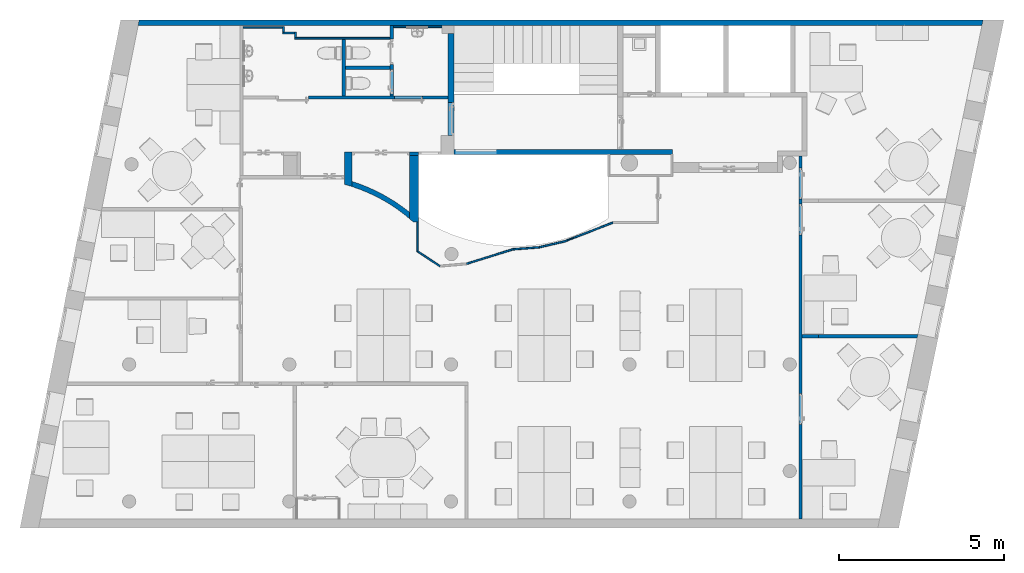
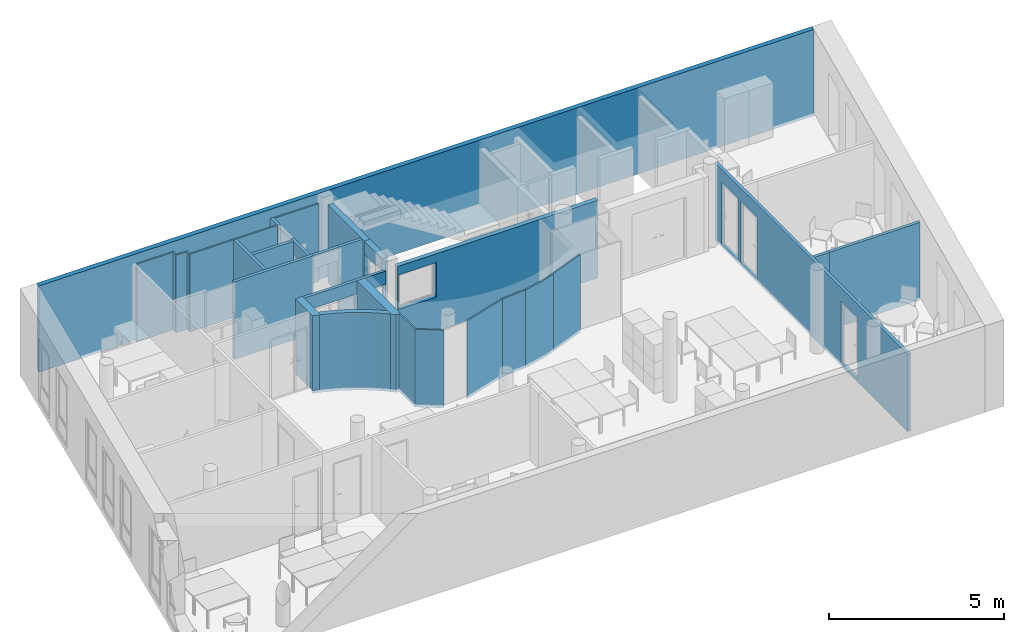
"""IFC4 building model written with IfcOpenShell, lengths in metres."""

from ifc_helpers import new_model, entity, si_unit, converted_unit, derived_unit, frame, frame_2d, origin, origin_with_axes, place, context, subcontext, project, spatial, polyline, rectangle, outline, extrude, clip, bounded_halfspace, material, layer, layer_set, layer_usage, element, save


model = new_model("IFC4")

# Units and contexts
model_context = context("Model", 3, precision=1e-05, world=origin())
body_context = subcontext(model_context, "Body", "Model", "MODEL_VIEW")
ifc_project = project(units=[si_unit("LENGTHUNIT", "METRE"), si_unit("AREAUNIT", "SQUARE_METRE"), si_unit("VOLUMEUNIT", "CUBIC_METRE"), si_unit("MASSUNIT", "GRAM", prefix="KILO"), converted_unit("PLANEANGLEUNIT", "DEGREE", entity("IfcPlaneAngleMeasure", 0.0174532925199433), si_unit("PLANEANGLEUNIT", "RADIAN"), dimensions=[0, 0, 0, 0, 0, 0, 0]), derived_unit("THERMALTRANSMITTANCEUNIT", [(si_unit("POWERUNIT", "WATT"), 1), (si_unit("THERMODYNAMICTEMPERATUREUNIT", "KELVIN"), -1), (si_unit("LENGTHUNIT", "METRE"), -2)]), derived_unit("VOLUMETRICFLOWRATEUNIT", [(si_unit("LENGTHUNIT", "METRE"), 3), (converted_unit("TIMEUNIT", "hour", entity("IfcTimeMeasure", 3600.0), si_unit("TIMEUNIT", "SECOND"), dimensions=[0, 0, 1, 0, 0, 0, 0]), -1), (si_unit("LENGTHUNIT", "METRE"), -1)])], contexts=[model_context])

# Building, storeys
building_placement = place(None, origin())
building = spatial("IfcBuilding", under=ifc_project, at=building_placement, Name="HABITATGE PLURIFAMILIAR", CompositionType="ELEMENT")
storey_1_placement = place(building_placement, frame((0.0, 0.0, 12.27)))
storey_1 = spatial("IfcBuildingStorey", under=building, at=storey_1_placement, Name="PLANTA TERCERA", CompositionType="ELEMENT", Elevation=12.27)
storey_2_placement = place(storey_1_placement, frame((0.0, 0.0, 9.26)))
storey_2 = spatial("IfcBuildingStorey", under=storey_1, at=storey_2_placement, Name="NOU", CompositionType="PARTIAL")

# Walls
ifc_material_1 = material()
ifc_layer_1 = layer(ifc_material_1, 0.1)
ifc_layer_set_1 = layer_set([ifc_layer_1])
ifc_layer_usage_1 = layer_usage(ifc_layer_set_1, "AXIS2", "POSITIVE", 0.0)
wall_1_placement = place(storey_2_placement, frame((407.539729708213, 26.7335398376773, -9.36)))
element("IfcWall", 1, at=wall_1_placement, inside=storey_2, material=ifc_layer_usage_1, Name="Evans P3", context=body_context, shape_type="SweptSolid", body=[
    extrude(rectangle(XDim=1.34774396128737, YDim=0.1, at=frame_2d((0.673871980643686, 0.05), x_axis=(1.0, 0.0))), origin_with_axes(), (0.0, 0.0, 1.0), 2.71),
])
ifc_material_2 = material()
ifc_layer_2 = layer(ifc_material_2, 0.1)
ifc_layer_set_2 = layer_set([ifc_layer_2])
ifc_layer_usage_2 = layer_usage(ifc_layer_set_2, "AXIS2", "POSITIVE", 0.0)
wall_2_placement = place(storey_2_placement, frame((407.439729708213, 27.6494598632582, -9.36), z_axis=(0.0, 0.0, 1.0), x_axis=(0.0, -1.0, 0.0)))
element("IfcWall", 2, at=wall_2_placement, inside=storey_2, material=ifc_layer_usage_2, Name="Evans P3", context=body_context, shape_type="SweptSolid", body=[
    extrude(rectangle(XDim=1.72, YDim=0.1, at=frame_2d((0.86, 0.05), x_axis=(1.0, 0.0))), origin_with_axes(), (0.0, 0.0, 1.0), 2.71),
])
ifc_material_3 = material()
ifc_layer_3 = layer(ifc_material_3, 0.05)
ifc_layer_set_3 = layer_set([ifc_layer_3])
ifc_layer_usage_3 = layer_usage(ifc_layer_set_3, "AXIS2", "POSITIVE", 0.0)
wall_3_placement = place(storey_2_placement, frame((404.436984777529, 27.9794598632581, -9.36)))
element("IfcWall", 3, at=wall_3_placement, inside=storey_2, material=ifc_layer_usage_3, Name="Evans P3", context=body_context, shape_type="SweptSolid", body=[
    extrude(rectangle(XDim=1.19999999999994, YDim=0.05, at=frame_2d((0.599999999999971, 0.025), x_axis=(1.0, 0.0))), origin_with_axes(), (0.0, 0.0, 1.0), 2.71),
])

# Wall, openings
ifc_material_4 = material()
ifc_layer_4 = layer(ifc_material_4, 0.1)
ifc_layer_set_4 = layer_set([ifc_layer_4])
ifc_layer_usage_4 = layer_usage(ifc_layer_set_4, "AXIS2", "POSITIVE", 0.0)
wall_4_placement = place(storey_2_placement, frame((410.426984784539, 24.2294598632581, -9.26), z_axis=(0.0, 0.0, 1.0), x_axis=(-1.0, 0.0, 0.0)))
wall_4 = element("IfcWall", 4, at=wall_4_placement, inside=storey_2, material=ifc_layer_usage_4, Name="Evans P3", context=body_context, shape_type="SweptSolid", body=[
    extrude(rectangle(XDim=2.69000000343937, YDim=0.1, at=frame_2d((1.34500000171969, 0.05), x_axis=(1.0, 0.0))), origin_with_axes(), (0.0, 0.0, 1.0), 2.61),
])
opening_1_placement = place(wall_4_placement, frame((2.68829611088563, 0.1, 0.0), z_axis=(0.0, -1.0, 0.0), x_axis=(0.0, 0.0, 1.0)))
element("IfcOpeningElement", 5, at=opening_1_placement, cuts=wall_4, Name="Vano porta P3", ObjectType="Opening", context=body_context, shape_type="SweptSolid", body=[
    extrude(outline(polyline([(2.15, 1.73983265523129), (2.15, 0.0), (0.0, 0.0), (0.0, 1.73983265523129), (2.15, 1.73983265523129)])), origin_with_axes(), (0.0, 0.0, 1.0), 0.1),
])
opening_2_placement = place(wall_4_placement, frame((0.680000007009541, 0.1, 0.0), z_axis=(0.0, -1.0, 0.0), x_axis=(0.0, 0.0, 1.0)))
element("IfcOpeningElement", 6, at=opening_2_placement, cuts=wall_4, Name="Vano porta P3", ObjectType="Opening", context=body_context, shape_type="SweptSolid", body=[
    extrude(outline(polyline([(2.15, 0.680000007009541), (2.15, 0.0), (0.0, 0.0), (0.0, 0.680000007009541), (2.15, 0.680000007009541)])), origin_with_axes(), (0.0, 0.0, 1.0), 0.1),
])

# Wall, opening
ifc_material_5 = material()
ifc_layer_5 = layer(ifc_material_5, 0.15)
ifc_layer_set_5 = layer_set([ifc_layer_5])
ifc_layer_usage_5 = layer_usage(ifc_layer_set_5, "AXIS2", "POSITIVE", 0.0)
wall_5_placement = place(storey_2_placement, frame((417.446984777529, 24.3094598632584, -9.36), z_axis=(0.0, 0.0, 1.0), x_axis=(-1.0, 0.0, 0.0)))
wall_5 = element("IfcWall", 7, at=wall_5_placement, inside=storey_2, material=ifc_layer_usage_5, Name="Evans P3", context=body_context, shape_type="SweptSolid", body=[
    extrude(rectangle(XDim=6.61999999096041, YDim=0.15, at=frame_2d((3.3099999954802, 0.075), x_axis=(1.0, 0.0))), origin_with_axes(), (0.0, 0.0, 1.0), 2.71),
])
opening_3_placement = place(wall_5_placement, frame((6.58000000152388, 0.149999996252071, 1.2), z_axis=(0.0, -1.0, 0.0), x_axis=(0.0, 0.0, 1.0)))
element("IfcOpeningElement", 8, at=opening_3_placement, cuts=wall_5, Name="Vano de Finestra P3", ObjectType="Opening", context=body_context, shape_type="SweptSolid", body=[
    extrude(outline(polyline([(1.2, 1.24), (1.2, 0.0), (0.0, 0.0), (0.0, 1.24), (1.2, 1.24)])), origin_with_axes(), (0.0, 0.0, 1.0), 0.15),
])

# Walls
ifc_material_6 = material()
ifc_layer_6 = layer(ifc_material_6, 0.05)
ifc_layer_set_6 = layer_set([ifc_layer_6])
ifc_layer_usage_6 = layer_usage(ifc_layer_set_6, "AXIS2", "POSITIVE", 0.0)
wall_6_placement = place(storey_2_placement, frame((405.996984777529, 27.6494598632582, -9.36)))
element("IfcWall", 9, at=wall_6_placement, inside=storey_2, material=ifc_layer_usage_6, Name="Evans P3", context=body_context, shape_type="SweptSolid", body=[
    extrude(rectangle(XDim=2.89048889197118, YDim=0.05, at=frame_2d((1.44524444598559, 0.025), x_axis=(1.0, 0.0))), origin_with_axes(), (0.0, 0.0, 1.0), 2.71),
])
ifc_material_7 = material()
ifc_layer_7 = layer(ifc_material_7, 0.05)
ifc_layer_set_7 = layer_set([ifc_layer_7])
ifc_layer_usage_7 = layer_usage(ifc_layer_set_7, "AXIS2", "POSITIVE", 0.0)
wall_7_placement = place(storey_2_placement, frame((408.986984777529, 27.9994598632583, -9.36)))
element("IfcWall", 10, at=wall_7_placement, inside=storey_2, material=ifc_layer_usage_7, Name="Evans P3", context=body_context, shape_type="SweptSolid", body=[
    extrude(rectangle(XDim=1.46600032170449, YDim=0.05, at=frame_2d((0.733000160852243, 0.025), x_axis=(1.0, 0.0))), origin_with_axes(), (0.0, 0.0, 1.0), 2.71),
])
ifc_material_8 = material()
ifc_layer_8 = layer(ifc_material_8, 0.05)
ifc_layer_set_8 = layer_set([ifc_layer_8])
ifc_layer_usage_8 = layer_usage(ifc_layer_set_8, "AXIS2", "POSITIVE", 0.0)
wall_8_placement = place(storey_2_placement, frame((405.996984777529, 27.8594598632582, -9.36), z_axis=(0.0, 0.0, 1.0), x_axis=(0.0, -1.0, 0.0)))
element("IfcWall", 11, at=wall_8_placement, inside=storey_2, material=ifc_layer_usage_8, Name="Evans P3", context=body_context, shape_type="SweptSolid", body=[
    extrude(rectangle(XDim=0.16, YDim=0.05, at=frame_2d((0.08, 0.025), x_axis=(1.0, 0.0))), origin_with_axes(), (0.0, 0.0, 1.0), 2.71),
])
ifc_material_9 = material()
ifc_layer_9 = layer(ifc_material_9, 0.05)
ifc_layer_set_9 = layer_set([ifc_layer_9])
ifc_layer_usage_9 = layer_usage(ifc_layer_set_9, "AXIS2", "POSITIVE", 0.0)
wall_9_placement = place(storey_2_placement, frame((405.636984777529, 27.8094598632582, -9.36)))
element("IfcWall", 12, at=wall_9_placement, inside=storey_2, material=ifc_layer_usage_9, Name="Evans P3", context=body_context, shape_type="SweptSolid", body=[
    extrude(rectangle(XDim=0.359999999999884, YDim=0.05, at=frame_2d((0.179999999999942, 0.025), x_axis=(1.0, 0.0))), origin_with_axes(), (0.0, 0.0, 1.0), 2.71),
])
ifc_material_10 = material()
ifc_layer_10 = layer(ifc_material_10, 0.05)
ifc_layer_set_10 = layer_set([ifc_layer_10])
ifc_layer_usage_10 = layer_usage(ifc_layer_set_10, "AXIS2", "POSITIVE", 0.0)
wall_10_placement = place(storey_2_placement, frame((405.636984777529, 28.0294598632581, -9.36), z_axis=(0.0, 0.0, 1.0), x_axis=(0.0, -1.0, 0.0)))
element("IfcWall", 13, at=wall_10_placement, inside=storey_2, material=ifc_layer_usage_10, Name="Evans P3", context=body_context, shape_type="SweptSolid", body=[
    extrude(rectangle(XDim=0.169999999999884, YDim=0.05, at=frame_2d((0.0849999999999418, 0.025), x_axis=(1.0, 0.0))), origin_with_axes(), (0.0, 0.0, 1.0), 2.71),
])
ifc_material_11 = material()
ifc_layer_11 = layer(ifc_material_11, 0.15)
ifc_layer_set_11 = layer_set([ifc_layer_11])
ifc_layer_usage_11 = layer_usage(ifc_layer_set_11, "AXIS2", "NEGATIVE", 0.0)
wall_11_placement = place(storey_2_placement, frame((406.149091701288, 18.2922370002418, -9.36)))
element("IfcWall", 14, at=wall_11_placement, inside=storey_2, material=ifc_layer_usage_11, Name="Evans P3", context=body_context, shape_type="Clipping", body=[
    clip(extrude(outline(polyline([(0.0396314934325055, 1.18515097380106), (0.0, 1.04046937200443), (0.190277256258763, 0.985817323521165), (0.444755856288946, 0.898067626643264), (0.694293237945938, 0.797119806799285), (0.938205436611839, 0.683250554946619), (1.17582390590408, 0.556771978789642), (1.4064973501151, 0.418030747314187), (1.62959350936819, 0.267407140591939), (1.84450089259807, 0.105314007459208), (1.96989676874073, 0.0), (1.96989676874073, 0.19588367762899), (1.93796193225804, 0.222704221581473), (1.71678273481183, 0.389527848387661), (1.48717578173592, 0.544547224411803), (1.24977040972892, 0.68733745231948), (1.0052173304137, 0.817507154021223), (0.754186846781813, 0.934699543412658), (0.497367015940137, 1.0385934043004), (0.235461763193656, 1.12890397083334), (0.0396314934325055, 1.18515097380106)])), frame((1.35799630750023, 3.91713035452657, 0.0), z_axis=(0.0, 0.0, 1.0), x_axis=(1.0, 0.0, 0.0)), (0.0, 0.0, 1.0), 2.71), bounded_halfspace(frame((1.49593676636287, 4.9804058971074, 0.1), z_axis=(0.0, 0.0, -1.0), x_axis=(0.961139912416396, -0.27606171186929, 0.0)), True, origin_with_axes(), polyline([(1.35799630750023, 4.95759972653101), (1.54827356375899, 4.90294767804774), (1.58789307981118, 4.89156803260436), (1.58789307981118, 5.04763272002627), (1.39762780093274, 5.10228132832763), (1.35799630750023, 4.95759972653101)]))),
])
ifc_material_12 = material()
ifc_layer_12 = layer(ifc_material_12, 0.0500000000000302)
ifc_layer_set_12 = layer_set([ifc_layer_12])
ifc_layer_usage_12 = layer_usage(ifc_layer_set_12, "AXIS2", "POSITIVE", 0.0)
wall_12_placement = place(storey_2_placement, frame((414.50945533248, 21.6294432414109, -9.36), z_axis=(0.0, 0.0, 1.0), x_axis=(0.932655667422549, 0.360767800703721, 0.0)))
element("IfcWall", 15, at=wall_12_placement, inside=storey_2, material=ifc_layer_usage_12, Name="Mampara P3", context=body_context, shape_type="SweptSolid", body=[
    extrude(outline(polyline([(0.356810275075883, -0.0500000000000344), (1.57647738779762, -0.0500000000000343), (1.58581086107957, 0.0), (0.0, 0.0), (0.356810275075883, -0.0500000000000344)])), frame((-0.356810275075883, 0.0500000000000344, 0.0), z_axis=(0.0, 0.0, 1.0), x_axis=(1.0, 0.0, 0.0)), (0.0, 0.0, 1.0), 2.71),
])
ifc_material_13 = material()
ifc_layer_13 = layer(ifc_material_13, 0.0500000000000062)
ifc_layer_set_13 = layer_set([ifc_layer_13])
ifc_layer_usage_13 = layer_usage(ifc_layer_set_13, "AXIS2", "POSITIVE", 0.0)
wall_13_placement = place(storey_2_placement, frame((413.40420236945, 21.3194598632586, -9.36), z_axis=(0.0, 0.0, 1.0), x_axis=(0.97369668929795, 0.227848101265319, 0.0)))
element("IfcWall", 16, at=wall_13_placement, inside=storey_2, material=ifc_layer_usage_13, Name="Mampara P3", context=body_context, shape_type="SweptSolid", body=[
    extrude(outline(polyline([(0.00743909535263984, -0.00174077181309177), (0.797439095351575, -0.00174077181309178), (1.15424937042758, 0.0482592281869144), (0.0112928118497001, 0.0482592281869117), (0.00743909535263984, -0.00174077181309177)])), frame((-0.00743909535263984, 0.00174077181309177, 0.0), z_axis=(0.0, 0.0, 1.0), x_axis=(1.0, 0.0, 0.0)), (0.0, 0.0, 1.0), 2.71),
])
ifc_material_14 = material()
ifc_layer_14 = layer(ifc_material_14, 0.0500000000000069)
ifc_layer_set_14 = layer_set([ifc_layer_14])
ifc_layer_usage_14 = layer_usage(ifc_layer_set_14, "AXIS2", "POSITIVE", 0.0)
wall_14_placement = place(storey_2_placement, frame((412.616484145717, 21.2594598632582, -9.36), z_axis=(0.0, 0.0, 1.0), x_axis=(0.997111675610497, 0.0759493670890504, 0.0)))
element("IfcWall", 17, at=wall_14_placement, inside=storey_2, material=ifc_layer_usage_14, Name="Mampara P3", context=body_context, shape_type="SweptSolid", body=[
    extrude(outline(polyline([(0.010581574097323, -0.000717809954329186), (0.799423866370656, -0.000717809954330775), (0.795570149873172, 0.0492821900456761), (0.00375379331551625, 0.0492821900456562), (0.00942386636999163, -0.000717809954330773), (0.0105520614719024, -0.000458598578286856), (0.010581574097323, -0.000717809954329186)])), frame((-0.00942386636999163, 0.000717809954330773, 0.0), z_axis=(0.0, 0.0, 1.0), x_axis=(1.0, 0.0, 0.0)), (0.0, 0.0, 1.0), 2.71),
])
ifc_material_15 = material()
ifc_layer_15 = layer(ifc_material_15, 0.0500000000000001)
ifc_layer_set_15 = layer_set([ifc_layer_15])
ifc_layer_usage_15 = layer_usage(ifc_layer_set_15, "AXIS2", "POSITIVE", 0.0)
wall_15_placement = place(storey_2_placement, frame((411.203402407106, 20.8194598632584, -9.36), z_axis=(0.0, 0.0, 1.0), x_axis=(0.954784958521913, 0.297297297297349, 0.0)))
element("IfcWall", 18, at=wall_15_placement, inside=storey_2, material=ifc_layer_usage_15, Name="Mampara P3", context=body_context, shape_type="SweptSolid", body=[
    extrude(outline(polyline([(0.00924179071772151, -0.00287767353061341), (1.48924179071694, -0.00287767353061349), (1.49491186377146, 0.0471223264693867), (0.014672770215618, 0.0471223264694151), (0.00924179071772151, -0.00287767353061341)])), frame((-0.00924179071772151, 0.00287767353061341, 0.0), z_axis=(0.0, 0.0, 1.0), x_axis=(1.0, 0.0, 0.0)), (0.0, 0.0, 1.0), 2.71),
])
ifc_material_16 = material()
ifc_layer_16 = layer(ifc_material_16, 0.0499999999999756)
ifc_layer_set_16 = layer_set([ifc_layer_16])
ifc_layer_usage_16 = layer_usage(ifc_layer_set_16, "AXIS2", "POSITIVE", 0.0)
wall_16_placement = place(storey_2_placement, frame((409.696984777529, 21.2096257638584, -9.36), z_axis=(0.0, 0.0, 1.0), x_axis=(0.831739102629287, -0.555166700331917, 0.0)))
element("IfcWall", 19, at=wall_16_placement, inside=storey_2, material=ifc_layer_usage_16, Name="Mampara P3", context=body_context, shape_type="SweptSolid", body=[
    extrude(outline(polyline([(-0.255468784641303, 0.382737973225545), (0.573410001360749, 0.382737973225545), (0.577749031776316, 0.386178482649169), (0.57774903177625, 0.432737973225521), (-0.228727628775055, 0.432737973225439), (-0.255468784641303, 0.382737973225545)])), frame((0.255468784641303, -0.382737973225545, 0.0), z_axis=(0.0, 0.0, 1.0), x_axis=(1.0, 0.0, 0.0)), (0.0, 0.0, 1.0), 2.71),
])
ifc_material_17 = material()
ifc_layer_17 = layer(ifc_material_17, 0.05)
ifc_layer_set_17 = layer_set([ifc_layer_17])
ifc_layer_usage_17 = layer_usage(ifc_layer_set_17, "AXIS2", "POSITIVE", 0.0)
wall_17_placement = place(storey_2_placement, frame((409.746984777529, 21.2363669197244, -9.36), z_axis=(0.0, 0.0, 1.0), x_axis=(0.0, 1.0, 0.0)))
element("IfcWall", 20, at=wall_17_placement, inside=storey_2, material=ifc_layer_usage_17, Name="Mampara P3", context=body_context, shape_type="SweptSolid", body=[
    extrude(outline(polyline([(0.0268577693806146, -0.05), (0.900000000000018, -0.05), (0.900000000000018, 0.0), (0.0, 0.0), (0.0267411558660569, -0.05), (0.0268577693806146, -0.05)])), frame((-0.0267411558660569, 0.05, 0.0), z_axis=(0.0, 0.0, 1.0), x_axis=(1.0, 0.0, 0.0)), (0.0, 0.0, 1.0), 2.71),
])
ifc_material_18 = material()
ifc_layer_18 = layer(ifc_material_18, 0.18)
ifc_layer_set_18 = layer_set([ifc_layer_18])
ifc_layer_usage_18 = layer_usage(ifc_layer_set_18, "AXIS2", "POSITIVE", 0.0)
wall_18_placement = place(storey_2_placement, frame((410.826984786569, 25.7294598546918, -9.36), z_axis=(0.0, 0.0, 1.0), x_axis=(0.0, 1.0, 0.0)))
element("IfcWall", 21, at=wall_18_placement, inside=storey_2, material=ifc_layer_usage_18, Name="Evans P3", context=body_context, shape_type="SweptSolid", body=[
    extrude(rectangle(XDim=2.09000001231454, YDim=0.18, at=frame_2d((1.04500000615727, 0.09), x_axis=(1.0, 0.0))), origin_with_axes(), (0.0, 0.0, 1.0), 2.71),
])
ifc_material_19 = material()
ifc_layer_19 = layer(ifc_material_19, 0.1)
ifc_layer_set_19 = layer_set([ifc_layer_19])
ifc_layer_usage_19 = layer_usage(ifc_layer_set_19, "AXIS2", "POSITIVE", 0.0)
wall_19_placement = place(storey_2_placement, frame((409.865355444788, 25.8294598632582, -9.36)))
element("IfcWall", 22, at=wall_19_placement, inside=storey_2, material=ifc_layer_usage_19, Name="Evans P3", context=body_context, shape_type="SweptSolid", body=[
    extrude(rectangle(XDim=0.781629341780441, YDim=0.1, at=frame_2d((0.39081467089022, 0.05), x_axis=(1.0, 0.0))), origin_with_axes(), (0.0, 0.0, 1.0), 2.71),
])
ifc_material_20 = material()
ifc_layer_20 = layer(ifc_material_20, 0.1)
ifc_layer_set_20 = layer_set([ifc_layer_20])
ifc_layer_usage_20 = layer_usage(ifc_layer_set_20, "AXIS2", "POSITIVE", 0.0)
wall_20_placement = place(storey_2_placement, frame((408.986984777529, 27.6494598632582, -9.36), z_axis=(0.0, 0.0, 1.0), x_axis=(0.0, 1.0, 0.0)))
element("IfcWall", 23, at=wall_20_placement, inside=storey_2, material=ifc_layer_usage_20, Name="Evans P3", context=body_context, shape_type="SweptSolid", body=[
    extrude(outline(polyline([(0.0, -0.1), (0.418788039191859, -0.1), (0.418788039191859, 0.0), (0.05, 0.0), (0.05, -0.000488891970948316), (0.0, -0.000488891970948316), (0.0, -0.1)])), frame((0.0, 0.1, 0.0), z_axis=(0.0, 0.0, 1.0), x_axis=(1.0, 0.0, 0.0)), (0.0, 0.0, 1.0), 2.71),
])
ifc_material_21 = material()
ifc_layer_21 = layer(ifc_material_21, 0.23)
ifc_layer_set_21 = layer_set([ifc_layer_21])
ifc_layer_usage_21 = layer_usage(ifc_layer_set_21, "AXIS2", "POSITIVE", 0.0)
wall_21_placement = place(storey_2_placement, frame((407.736984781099, 23.1838050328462, -9.26), z_axis=(0.0, 0.0, 1.0), x_axis=(0.0, 1.0, 0.0)))
element("IfcWall", 24, at=wall_21_placement, inside=storey_2, material=ifc_layer_usage_21, Name="Evans P3", context=body_context, shape_type="SweptSolid", body=[
    extrude(outline(polyline([(0.0, -0.23), (1.04565483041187, -0.23), (1.04565483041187, 0.0), (0.0660613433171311, 0.0), (0.0, -0.23)])), frame((0.0, 0.23, 0.0), z_axis=(0.0, 0.0, 1.0), x_axis=(1.0, 0.0, 0.0)), (0.0, 0.0, 1.0), 2.61),
])
ifc_material_22 = material()
ifc_layer_22 = layer(ifc_material_22, 0.27)
ifc_layer_set_22 = layer_set([ifc_layer_22])
ifc_layer_usage_22 = layer_usage(ifc_layer_set_22, "AXIS2", "POSITIVE", 0.0)
wall_22_placement = place(storey_2_placement, frame((409.746984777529, 22.1096257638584, -9.36), z_axis=(0.0, 0.0, 1.0), x_axis=(0.0, 1.0, 0.0)))
element("IfcWall", 25, at=wall_22_placement, inside=storey_2, material=ifc_layer_usage_22, Name="Evans P3", context=body_context, shape_type="SweptSolid", body=[
    extrude(outline(polyline([(0.0, -0.27), (2.01983409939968, -0.27), (2.01983409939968, 0.0), (0.0997415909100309, 0.0), (0.0, -0.114951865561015), (0.0, -0.27)])), frame((0.0, 0.27, 0.0), z_axis=(0.0, 0.0, 1.0), x_axis=(1.0, 0.0, 0.0)), (0.0, 0.0, 1.0), 2.71),
])
ifc_material_23 = material()
ifc_layer_23 = layer(ifc_material_23, 0.16)
ifc_layer_set_23 = layer_set([ifc_layer_23])
ifc_layer_usage_23 = layer_usage(ifc_layer_set_23, "AXIS2", "POSITIVE", 0.0)
wall_23_placement = place(storey_2_placement, frame((426.846407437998, 28.22824790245, -9.36), z_axis=(0.0, 0.0, 1.0), x_axis=(-1.0, 0.0, 0.0)))
element("IfcWall", 26, at=wall_23_placement, inside=storey_2, material=ifc_layer_usage_23, Name="Evans P3", context=body_context, shape_type="SweptSolid", body=[
    extrude(outline(polyline([(-25.5876815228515, -0.16), (-0.0317001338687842, -0.16), (0.0, 0.0), (-25.5545232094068, 0.0), (-25.5876815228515, -0.16)])), frame((25.5876815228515, 0.16, 0.0), z_axis=(0.0, 0.0, 1.0), x_axis=(1.0, 0.0, 0.0)), (0.0, 0.0, 1.0), 3.01),
])
ifc_material_24 = material()
ifc_layer_24 = layer(ifc_material_24, 0.1)
ifc_layer_set_24 = layer_set([ifc_layer_24])
ifc_layer_usage_24 = layer_usage(ifc_layer_set_24, "AXIS2", "POSITIVE", 0.0)
wall_24_placement = place(storey_2_placement, frame((406.415197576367, 25.8294598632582, -9.36)))
element("IfcWall", 27, at=wall_24_placement, inside=storey_2, material=ifc_layer_usage_24, Name="Evans P3", context=body_context, shape_type="SweptSolid", body=[
    extrude(rectangle(XDim=2.60015786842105, YDim=0.1, at=frame_2d((1.30007893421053, 0.05), x_axis=(1.0, 0.0))), origin_with_axes(), (0.0, 0.0, 1.0), 2.71),
])

# Wall, opening
ifc_material_25 = material()
ifc_layer_25 = layer(ifc_material_25, 0.18)
ifc_layer_set_25 = layer_set([ifc_layer_25])
ifc_layer_usage_25 = layer_usage(ifc_layer_set_25, "AXIS2", "POSITIVE", 0.0)
wall_25_placement = place(storey_2_placement, frame((410.826984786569, 24.7294598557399, -9.36), z_axis=(0.0, 0.0, 1.0), x_axis=(0.0, 1.0, 0.0)))
wall_25 = element("IfcWall", 28, at=wall_25_placement, inside=storey_2, material=ifc_layer_usage_25, Name="Evans P3", context=body_context, shape_type="SweptSolid", body=[
    extrude(rectangle(XDim=0.999999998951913, YDim=0.18, at=frame_2d((0.499999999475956, 0.09), x_axis=(1.0, 0.0))), origin_with_axes(), (0.0, 0.0, 1.0), 2.71),
])
opening_4_placement = place(wall_25_placement, frame((0.000971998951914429, 0.0, 0.1), z_axis=(0.0, 1.0, 0.0), x_axis=(0.0, 0.0, 1.0)))
element("IfcOpeningElement", 29, at=opening_4_placement, cuts=wall_25, Name="Vano porta P3", ObjectType="Opening", context=body_context, shape_type="SweptSolid", body=[
    extrude(outline(polyline([(2.15, 0.999027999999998), (2.15, 0.0), (0.0, 0.0), (0.0, 0.999027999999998), (2.15, 0.999027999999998)])), origin_with_axes(), (0.0, 0.0, 1.0), 0.18),
])

# Wall, openings
ifc_material_26 = material()
ifc_layer_26 = layer(ifc_material_26, 0.1)
ifc_layer_set_26 = layer_set([ifc_layer_26])
ifc_layer_usage_26 = layer_usage(ifc_layer_set_26, "AXIS2", "POSITIVE", 0.0)
wall_26_placement = place(storey_2_placement, frame((408.986984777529, 25.9294598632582, -9.36), z_axis=(0.0, 0.0, 1.0), x_axis=(0.0, 1.0, 0.0)))
wall_26 = element("IfcWall", 30, at=wall_26_placement, inside=storey_2, material=ifc_layer_usage_26, Name="Evans P3", context=body_context, shape_type="SweptSolid", body=[
    extrude(outline(polyline([(0.0, -0.1), (1.72, -0.1), (1.72, 0.0), (0.904079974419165, 0.0), (0.804079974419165, 0.0), (0.0, 0.0), (0.0, -0.1)])), frame((0.0, 0.1, 0.0), z_axis=(0.0, 0.0, 1.0), x_axis=(1.0, 0.0, 0.0)), (0.0, 0.0, 1.0), 2.71),
])
opening_5_placement = place(wall_26_placement, frame((1.72, 0.1, 0.0), z_axis=(0.0, -1.0, 0.0), x_axis=(0.0, 0.0, 1.0)))
element("IfcOpeningElement", 31, at=opening_5_placement, cuts=wall_26, Name="Vano porta P3", ObjectType="Opening", context=body_context, shape_type="SweptSolid", body=[
    extrude(outline(polyline([(2.71, 0.771026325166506), (2.71, 0.0), (0.0, 0.0), (0.0, 0.771026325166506), (2.71, 0.771026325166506)])), origin_with_axes(), (0.0, 0.0, 1.0), 0.1),
])
opening_6_placement = place(wall_26_placement, frame((0.798973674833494, 0.1, 0.1), z_axis=(0.0, -1.0, 0.0), x_axis=(0.0, 0.0, 1.0)))
element("IfcOpeningElement", 32, at=opening_6_placement, cuts=wall_26, Name="Vano porta P3", ObjectType="Opening", context=body_context, shape_type="SweptSolid", body=[
    extrude(outline(polyline([(2.15, 0.74), (2.15, 0.0), (0.0, 0.0), (0.0, 0.74), (2.15, 0.74)])), origin_with_axes(), (0.0, 0.0, 1.0), 0.1),
])

ifc_material_27 = material()
ifc_layer_27 = layer(ifc_material_27, 0.1)
ifc_layer_set_27 = layer_set([ifc_layer_27])
ifc_layer_usage_27 = layer_usage(ifc_layer_set_27, "AXIS2", "POSITIVE", 0.0)
wall_27_placement = place(storey_2_placement, frame((421.265852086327, 24.1094598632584, -9.36), z_axis=(0.0, 0.0, 1.0), x_axis=(0.0, -1.0, 0.0)))
wall_27 = element("IfcWall", 33, at=wall_27_placement, inside=storey_2, material=ifc_layer_usage_27, Name="Mampara P3", context=body_context, shape_type="SweptSolid", body=[
    extrude(rectangle(XDim=10.9988477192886, YDim=0.1, at=frame_2d((5.49942385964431, 0.05), x_axis=(1.0, 0.0))), origin_with_axes(), (0.0, 0.0, 1.0), 2.71),
])
opening_7_placement = place(wall_27_placement, frame((7.19486664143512, 0.0, 0.1), z_axis=(0.0, 1.0, 0.0), x_axis=(0.0, 0.0, 1.0)))
element("IfcOpeningElement", 34, at=opening_7_placement, cuts=wall_27, Name="Vano porta P3", ObjectType="Opening", context=body_context, shape_type="SweptSolid", body=[
    extrude(outline(polyline([(2.15, 0.939999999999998), (2.15, 0.0), (0.0, 0.0), (0.0, 0.939999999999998), (2.15, 0.939999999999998)])), origin_with_axes(), (0.0, 0.0, 1.0), 0.1),
])
opening_8_placement = place(wall_27_placement, frame((0.36871722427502, 0.0, 0.1), z_axis=(0.0, 1.0, 0.0), x_axis=(0.0, 0.0, 1.0)))
element("IfcOpeningElement", 35, at=opening_8_placement, cuts=wall_27, Name="Vano porta P3", ObjectType="Opening", context=body_context, shape_type="SweptSolid", body=[
    extrude(outline(polyline([(2.15, 0.94), (2.15, 0.0), (0.0, 0.0), (0.0, 0.94), (2.15, 0.94)])), origin_with_axes(), (0.0, 0.0, 1.0), 0.1),
])
opening_9_placement = place(wall_27_placement, frame((1.45871722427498, 0.0, 0.1), z_axis=(0.0, 1.0, 0.0), x_axis=(0.0, 0.0, 1.0)))
element("IfcOpeningElement", 36, at=opening_9_placement, cuts=wall_27, Name="Vano porta P3", ObjectType="Opening", context=body_context, shape_type="SweptSolid", body=[
    extrude(outline(polyline([(2.15, 0.94), (2.15, 0.0), (0.0, 0.0), (0.0, 0.94), (2.15, 0.94)])), origin_with_axes(), (0.0, 0.0, 1.0), 0.1),
])

# Walls
ifc_material_28 = material()
ifc_layer_28 = layer(ifc_material_28, 0.1)
ifc_layer_set_28 = layer_set([ifc_layer_28])
ifc_layer_usage_28 = layer_usage(ifc_layer_set_28, "AXIS2", "POSITIVE", 0.0)
wall_28_placement = place(storey_2_placement, frame((421.865852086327, 18.6056335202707, -9.36)))
element("IfcWall", 37, at=wall_28_placement, inside=storey_2, material=ifc_layer_usage_28, Name="Evans P3", context=body_context, shape_type="SweptSolid", body=[
    extrude(outline(polyline([(0.0, 0.0), (2.98636995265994, 0.0), (3.00709389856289, 0.1), (0.0, 0.1), (0.0, 0.0)])), origin_with_axes(), (0.0, 0.0, 1.0), 2.71),
])
ifc_material_29 = material()
ifc_layer_29 = layer(ifc_material_29, 0.1)
ifc_layer_set_29 = layer_set([ifc_layer_29])
ifc_layer_usage_29 = layer_usage(ifc_layer_set_29, "AXIS2", "POSITIVE", 0.0)
wall_29_placement = place(storey_2_placement, frame((421.365852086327, 18.6056335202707, -9.36)))
element("IfcWall", 38, at=wall_29_placement, inside=storey_2, material=ifc_layer_usage_29, Name="Evans P3", context=body_context, shape_type="SweptSolid", body=[
    extrude(rectangle(XDim=0.5, YDim=0.1, at=frame_2d((0.25, 0.05), x_axis=(1.0, 0.0))), origin_with_axes(), (0.0, 0.0, 1.0), 2.71),
])

# Wall, opening
ifc_material_30 = material()
ifc_layer_30 = layer(ifc_material_30, 0.1)
ifc_layer_set_30 = layer_set([ifc_layer_30])
ifc_layer_usage_30 = layer_usage(ifc_layer_set_30, "AXIS2", "POSITIVE", 0.0)
wall_30_placement = place(storey_2_placement, frame((409.015355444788, 25.8294598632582, -9.36)))
wall_30 = element("IfcWall", 39, at=wall_30_placement, inside=storey_2, material=ifc_layer_usage_30, Name="Evans P3", context=body_context, shape_type="SweptSolid", body=[
    extrude(rectangle(XDim=0.85, YDim=0.1, at=frame_2d((0.425, 0.05), x_axis=(1.0, 0.0))), origin_with_axes(), (0.0, 0.0, 1.0), 2.71),
])
opening_10_placement = place(wall_30_placement, frame((0.85, 0.1, 0.1), z_axis=(0.0, -1.0, 0.0), x_axis=(0.0, 0.0, 1.0)))
element("IfcOpeningElement", 40, at=opening_10_placement, cuts=wall_30, Name="Vano porta P3", ObjectType="Opening", context=body_context, shape_type="SweptSolid", body=[
    extrude(outline(polyline([(2.15, 0.85), (2.15, 0.0), (0.0, 0.0), (0.0, 0.85), (2.15, 0.85)])), origin_with_axes(), (0.0, 0.0, 1.0), 0.1),
])

save(model, "model.ifc")
